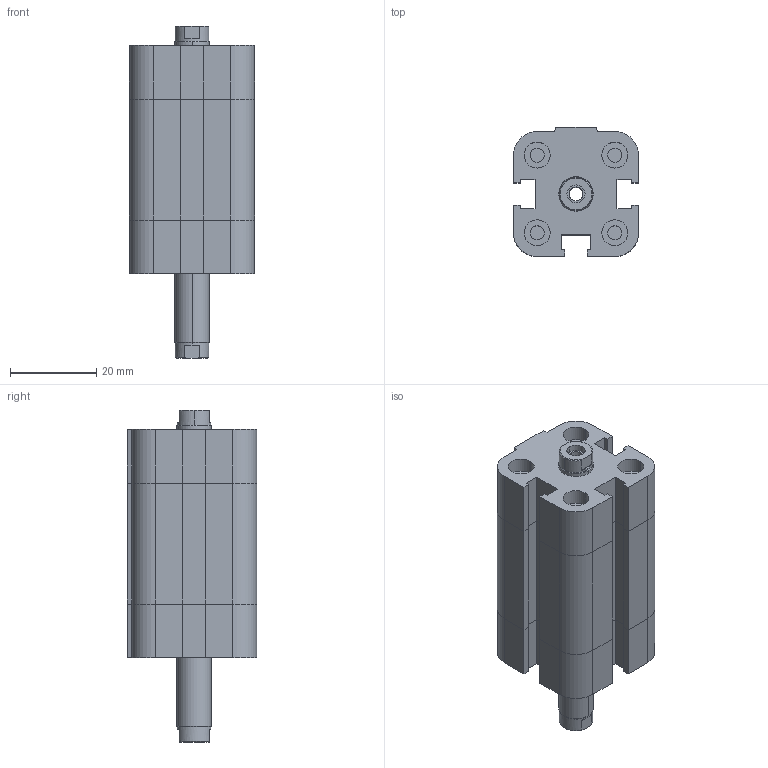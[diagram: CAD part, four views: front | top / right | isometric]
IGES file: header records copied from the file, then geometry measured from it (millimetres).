
Global section: file name: No Iges File Name specified; native system: Autodesk Inventor 2009; preprocessor: AutoDesk Inventor Iges Exporter R2009; author: maffial1; date: 20090420.201144; units: millimetre
Bounding box: 29 x 30 x 77 mm (x, y, z)
Volume: 37288.3 mm3; surface area: 15244.1 mm2
Topology: 2 solids, 2 shells, 204 faces, 456 edges, 278 vertices
Faces by surface type: plane 114, bspline 44, revolution 20, cylinder 18, cone 8
